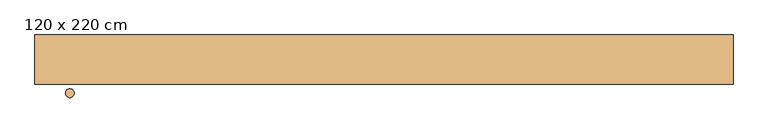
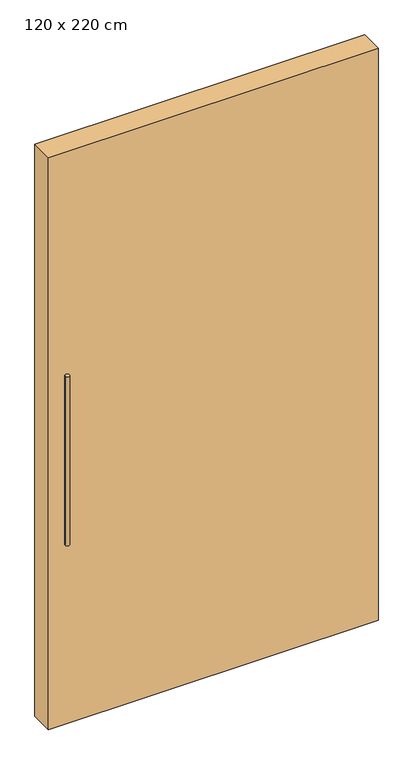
"""IFC4 building model written with IfcOpenShell, lengths in millimetres: door geometry, PUERTA ACCESO_PIVOT : 120 x 220 cm."""

from ifc_helpers import new_model, si_unit, point, frame, frame_2d, origin, origin_with_axes, place, context, project, spatial, polyline, circle_curve, trimmed, segment, composite_curve, outline, extrude, source, transform, mapped, element, save


def door_120_x_220_cm_1a80d65d(model_context):
    return source(origin(), model_context, "Body", "SweptSolid", [
        extrude(outline(polyline([(-183.1334164, -105.0), (-183.1334164, -20.0), (1016.8665836, -20.0), (1016.8665836, -105.0), (-183.1334164, -105.0)])), origin_with_axes(), (0.0, 0.0, 1.0), 2200.0),
        extrude(outline(composite_curve([segment(trimmed(circle_curve(frame_2d((-123.1334164, -60.0)), 7.5172322), [point((-130.6506486, -60.0))], [point((-115.6161842, -60.0))], False, "CARTESIAN"), True, "CONTINUOUS"), segment(trimmed(circle_curve(frame_2d((-123.1334164, -60.0)), 7.5172322), [point((-115.6161842, -60.0))], [point((-130.6506486, -60.0))], False, "CARTESIAN"), True, "CONTINUOUS")], self_intersect=False)), frame((0.0, 0.0, 700.0), z_axis=(0.0, 0.0, 1.0), x_axis=(1.0, 0.0, 0.0)), (0.0, 0.0, 1.0), 650.0),
        extrude(outline(composite_curve([segment(trimmed(circle_curve(frame_2d((-123.1334164, -120.0)), 7.5172322), [point((-130.6506486, -120.0))], [point((-115.6161842, -120.0))], False, "CARTESIAN"), True, "CONTINUOUS"), segment(trimmed(circle_curve(frame_2d((-123.1334164, -120.0)), 7.5172322), [point((-115.6161842, -120.0))], [point((-130.6506486, -120.0))], False, "CARTESIAN"), True, "CONTINUOUS")], self_intersect=False)), frame((0.0, 0.0, 700.0), z_axis=(0.0, 0.0, 1.0), x_axis=(1.0, 0.0, 0.0)), (0.0, 0.0, 1.0), 650.0),
    ])


if __name__ == "__main__":
    model = new_model("IFC4")
    model_context = context("Model", 3, world=origin())
    ifc_project = project(units=[si_unit("LENGTHUNIT", "METRE", prefix="MILLI")], contexts=[model_context])
    site = spatial("IfcSite", under=ifc_project)
    building = spatial("IfcBuilding", under=site)
    placement = place(None, origin())
    door_120_x_220_cm_shape = door_120_x_220_cm_1a80d65d(model_context)
    element("IfcDoor", 1, ObjectType="PUERTA ACCESO_PIVOT : 120 x 220 cm", at=placement, inside=building, context=model_context, shape_type="MappedRepresentation", body=[
        mapped(door_120_x_220_cm_shape, transform((0.0, 0.0, 0.0), x_axis=(1.0, 0.0, 0.0), y_axis=(0.0, 1.0, 0.0), z_axis=(0.0, 0.0, 1.0))),
    ])
    save(model, "model.ifc")
